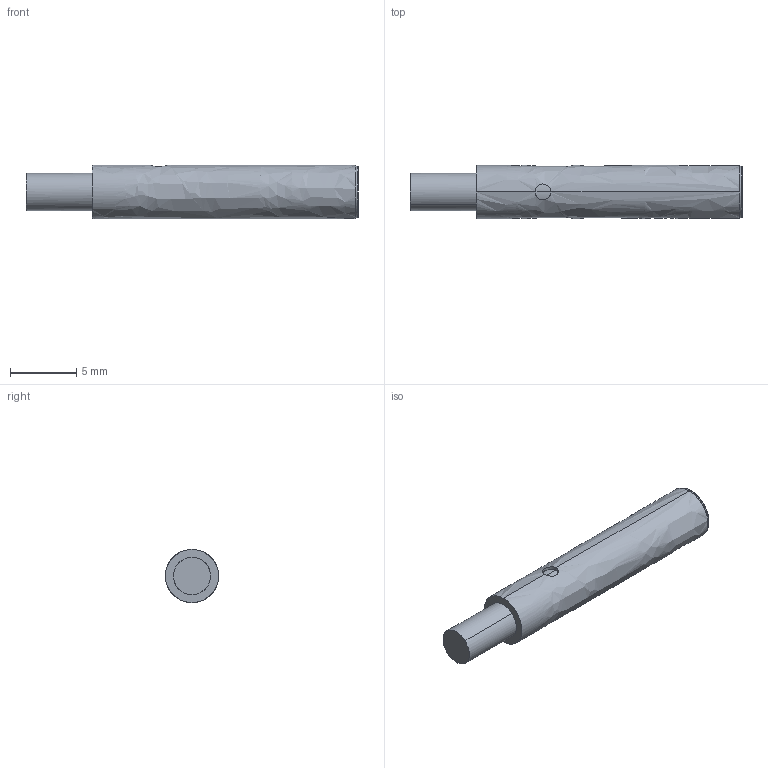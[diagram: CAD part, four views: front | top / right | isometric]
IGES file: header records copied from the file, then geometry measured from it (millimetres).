
Start section: Comment
Global section: file name: IFRM 04xxxA3_L.igs; native system:  By Spatial Corp.; preprocessor: XPlus GENERIC/IGES 3.0; author: Author; organization: Title; date: 20040805.075208; units: inch
Bounding box: 24.98 x 4 x 4 mm (x, y, z)
Surface area: 320.7 mm2 (no closed solid volume)
Topology: 0 solids, 0 shells, 16 faces, 68 edges, 68 vertices
Faces by surface type: bspline 16
